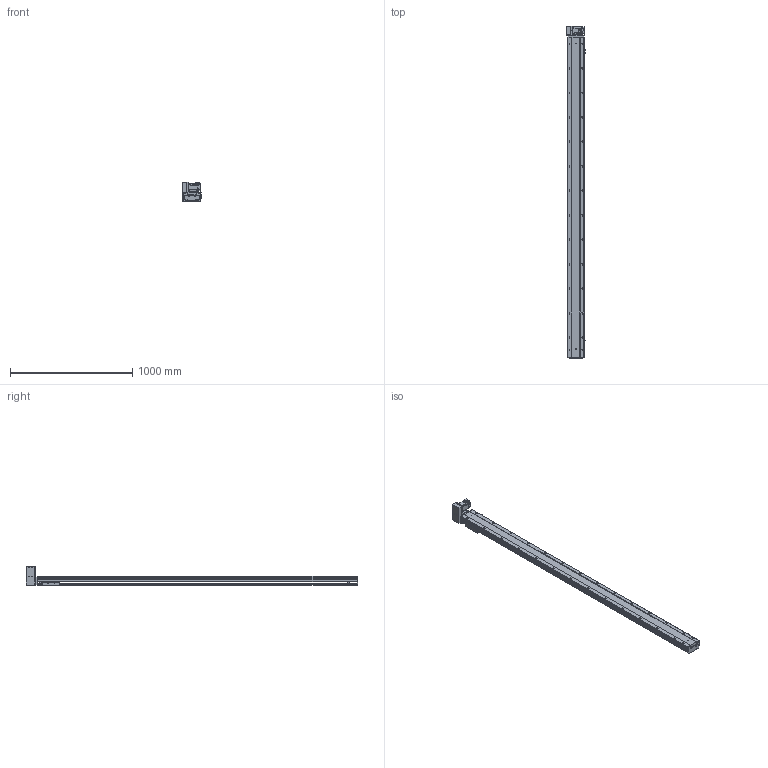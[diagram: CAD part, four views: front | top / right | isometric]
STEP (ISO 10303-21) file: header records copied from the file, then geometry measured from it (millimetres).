
FILE_DESCRIPTION (( 'STEP AP203' ), '1' );
FILE_NAME ('235.STEP', '2022-07-21T08:57:58', ( '' ), ( '' ), 'SwSTEP 2.0', 'SolidWorks 2016', '' );
FILE_SCHEMA (( 'CONFIG_CONTROL_DESIGN' ));
Length unit declared in the file: millimetre
Products named in the file (10): 235; BTB14-L-HZ; BTB14-L-菁釱_XD; BTB14-L-04; BTB14-L-23; BTB14-L-M40; BTB14-L-01; BTB14-L-24; BTB14-L-02; BTB14-L-06
Assembly tree (12 placements, depth 2):
  235
    BTB14-L-菁釱_XD
    BTB14-L-01
    BTB14-L-02
    BTB14-L-04  x3
    BTB14-L-06
    BTB14-L-23  x2
    BTB14-L-24
    BTB14-L-HZ
    BTB14-L-M40
Bounding box: 160.7 x 2712.5 x 157.3 mm (x, y, z)
Volume: 11717276.1 mm3; surface area: 2416023.5 mm2
Topology: 22 solids, 22 shells, 1702 faces, 4501 edges, 2854 vertices
Faces by surface type: plane 937, cylinder 520, cone 156, bspline 77, torus 12
Entity records: 45402 total; most frequent: CARTESIAN_POINT 11005, DIRECTION 6896, ORIENTED_EDGE 6860, EDGE_CURVE 3430, AXIS2_PLACEMENT_3D 2303, VECTOR 2290, LINE 2290, VERTEX_POINT 2232
